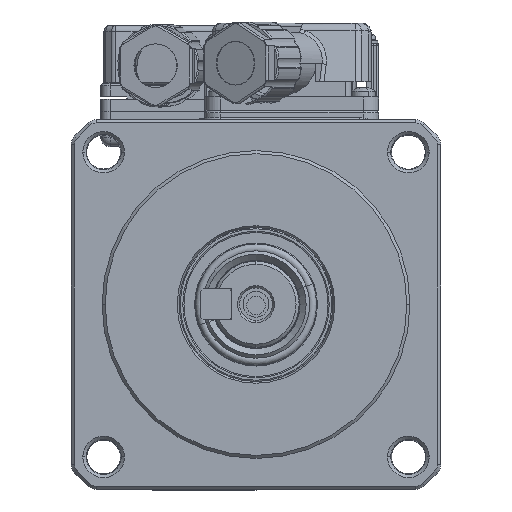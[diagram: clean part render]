
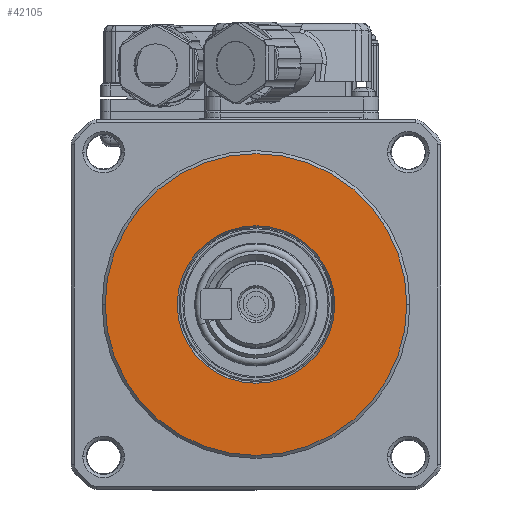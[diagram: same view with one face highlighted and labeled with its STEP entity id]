
A CAD part, top view. The second image highlights one B-rep face of the part: STEP entity #42105.
In plain terms, the highlighted planar face has unit normal (0, 0, 1).
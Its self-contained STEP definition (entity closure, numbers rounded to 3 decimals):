
#1073 = VERTEX_POINT ( 'NONE', #28033 ) ;
#2811 = CARTESIAN_POINT ( 'NONE',  ( 0., 0., 0. ) ) ;
#6206 = AXIS2_PLACEMENT_3D ( 'NONE', #42961, #56070, #57256 ) ;
#8044 = CIRCLE ( 'NONE', #17540, 24.5 ) ;
#8288 = CARTESIAN_POINT ( 'NONE',  ( 0., 0., 0. ) ) ;
#9243 = AXIS2_PLACEMENT_3D ( 'NONE', #33241, #32936, #32071 ) ;
#10684 = ORIENTED_EDGE ( 'NONE', *, *, #57015, .T. ) ;
#13562 = EDGE_CURVE ( 'NONE', #49711, #48041, #22567, .T. ) ;
#15359 = CARTESIAN_POINT ( 'NONE',  ( 0., 0., 0. ) ) ;
#15934 = FACE_OUTER_BOUND ( 'NONE', #22657, .T. ) ;
#16239 = PLANE ( 'NONE',  #6206 ) ;
#17540 = AXIS2_PLACEMENT_3D ( 'NONE', #15359, #37361, #55506 ) ;
#20996 = DIRECTION ( 'NONE',  ( 1., 0., 0. ) ) ;
#21867 = DIRECTION ( 'NONE',  ( 0., 0., 1. ) ) ;
#22567 = CIRCLE ( 'NONE', #53954, 12.789 ) ;
#22657 = EDGE_LOOP ( 'NONE', ( #10684, #58209 ) ) ;
#25146 = FACE_BOUND ( 'NONE', #41434, .T. ) ;
#26507 = ORIENTED_EDGE ( 'NONE', *, *, #13562, .F. ) ;
#27516 = CARTESIAN_POINT ( 'NONE',  ( 24.5, 0., 0. ) ) ;
#28033 = CARTESIAN_POINT ( 'NONE',  ( -24.5, 0., 0. ) ) ;
#30424 = ORIENTED_EDGE ( 'NONE', *, *, #37794, .F. ) ;
#30916 = DIRECTION ( 'NONE',  ( 0., 0., 1. ) ) ;
#32071 = DIRECTION ( 'NONE',  ( 1., 0., 0. ) ) ;
#32936 = DIRECTION ( 'NONE',  ( 0., 0., 1. ) ) ;
#33241 = CARTESIAN_POINT ( 'NONE',  ( 0., 0., 0. ) ) ;
#35648 = DIRECTION ( 'NONE',  ( 1., 0., 0. ) ) ;
#36859 = CARTESIAN_POINT ( 'NONE',  ( 12.789, 0., 0. ) ) ;
#37361 = DIRECTION ( 'NONE',  ( 0., 0., 1. ) ) ;
#37794 = EDGE_CURVE ( 'NONE', #48041, #49711, #52025, .T. ) ;
#37877 = CARTESIAN_POINT ( 'NONE',  ( -12.789, 0., 0. ) ) ;
#41434 = EDGE_LOOP ( 'NONE', ( #26507, #30424 ) ) ;
#42105 = ADVANCED_FACE ( 'NONE', ( #25146, #15934 ), #16239, .F. ) ;
#42961 = CARTESIAN_POINT ( 'NONE',  ( 0., 12.2, 0. ) ) ;
#44246 = EDGE_CURVE ( 'NONE', #49191, #1073, #49120, .T. ) ;
#48041 = VERTEX_POINT ( 'NONE', #37877 ) ;
#49120 = CIRCLE ( 'NONE', #9243, 24.5 ) ;
#49191 = VERTEX_POINT ( 'NONE', #27516 ) ;
#49711 = VERTEX_POINT ( 'NONE', #36859 ) ;
#51032 = AXIS2_PLACEMENT_3D ( 'NONE', #8288, #30916, #35648 ) ;
#52025 = CIRCLE ( 'NONE', #51032, 12.789 ) ;
#53954 = AXIS2_PLACEMENT_3D ( 'NONE', #2811, #21867, #20996 ) ;
#55506 = DIRECTION ( 'NONE',  ( 1., 0., 0. ) ) ;
#56070 = DIRECTION ( 'NONE',  ( 0., 0., -1. ) ) ;
#57015 = EDGE_CURVE ( 'NONE', #1073, #49191, #8044, .T. ) ;
#57256 = DIRECTION ( 'NONE',  ( -1., 0., 0. ) ) ;
#58209 = ORIENTED_EDGE ( 'NONE', *, *, #44246, .T. ) ;
